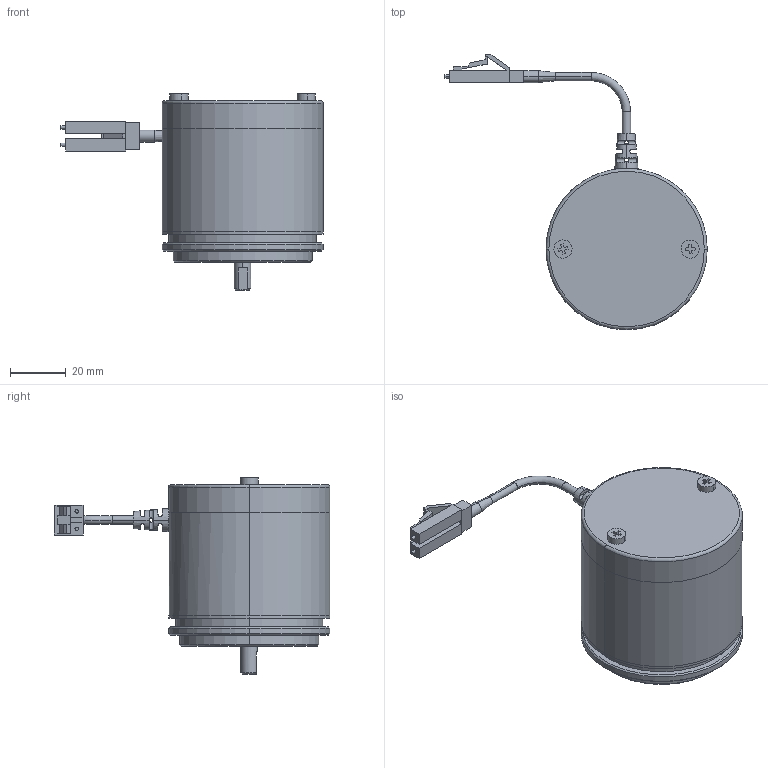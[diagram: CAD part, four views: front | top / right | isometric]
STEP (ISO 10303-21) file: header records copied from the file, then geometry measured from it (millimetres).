
FILE_DESCRIPTION (( 'STEP AP203' ), '1' );
FILE_NAME ('MR348.STEP', '2018-04-10T20:47:41', ( '' ), ( '' ), 'SwSTEP 2.0', 'SolidWorks 2017', '' );
FILE_SCHEMA (( 'CONFIG_CONTROL_DESIGN' ));
Length unit declared in the file: inch
Products named in the file (1): MR348
Bounding box: 94.31 x 99.05 x 70.54 mm (x, y, z)
Volume: 72989.3 mm3; surface area: 42890.7 mm2
Topology: 11 solids, 11 shells, 330 faces, 786 edges, 502 vertices
Faces by surface type: plane 150, cylinder 129, cone 41, torus 10
Entity records: 10043 total; most frequent: CARTESIAN_POINT 2107, DIRECTION 1722, ORIENTED_EDGE 1544, EDGE_CURVE 772, AXIS2_PLACEMENT_3D 653, VERTEX_POINT 502, VECTOR 416, LINE 416
